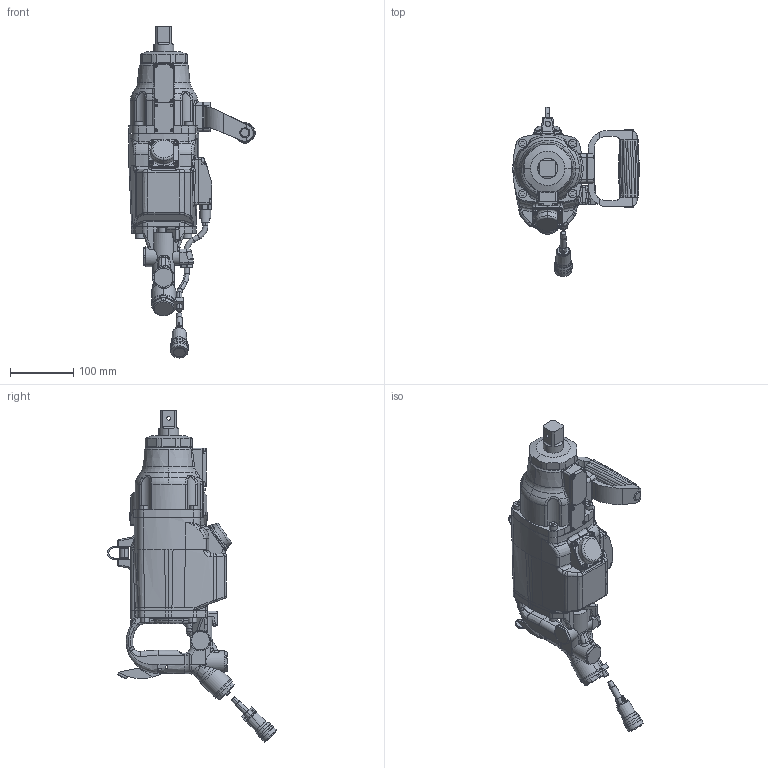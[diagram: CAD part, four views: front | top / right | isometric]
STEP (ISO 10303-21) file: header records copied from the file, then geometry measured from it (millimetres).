
FILE_DESCRIPTION (( 'STEP AP203' ), '1' );
FILE_NAME ('UXR-2400SMC.STEP', '2011-12-01T00:41:04', ( ' ' ), ( ' ' ), 'SwSTEP 2.0', 'SolidWorks 2005204', '' );
FILE_SCHEMA (( 'CONFIG_CONTROL_DESIGN' ));
Length unit declared in the file: millimetre
Products named in the file (9): 1660100_UXR-2400SMC_蹬怮椔; 1091071_UXR-2400SMC_蹬怮椔; UXR-2400SMC; 8516871_2_UXR-2400SMC_蹬怮椔; 8516871_1_UXR-2400SMC_蹬怮椔; 1660250_UXR-2400SMC_蹬怮椔; 1032120_UXR-2400SMC_蹬怮椔; 9102560_UXR-2400SMC_蹬怮椔; 1957909_UXR-2400SMC_蹬怮椔
Assembly tree (8 placements, depth 2):
  UXR-2400SMC
    1957909_UXR-2400SMC_蹬怮椔
    9102560_UXR-2400SMC_蹬怮椔
    1660100_UXR-2400SMC_蹬怮椔
    1032120_UXR-2400SMC_蹬怮椔
    1660250_UXR-2400SMC_蹬怮椔
    8516871_2_UXR-2400SMC_蹬怮椔
    8516871_1_UXR-2400SMC_蹬怮椔
    1091071_UXR-2400SMC_蹬怮椔
Bounding box: 199.14 x 266.35 x 523.65 mm (x, y, z)
Volume: 3613899.1 mm3; surface area: 298553.1 mm2
Topology: 8 solids, 8 shells, 1702 faces, 4498 edges, 2895 vertices
Faces by surface type: plane 696, cylinder 538, bspline 347, torus 70, cone 42, sphere 9
Entity records: 133394 total; most frequent: CARTESIAN_POINT 92927, ORIENTED_EDGE 8954, DIRECTION 7170, EDGE_CURVE 4477, VERTEX_POINT 2894, AXIS2_PLACEMENT_3D 2558, VECTOR 2054, LINE 2054
